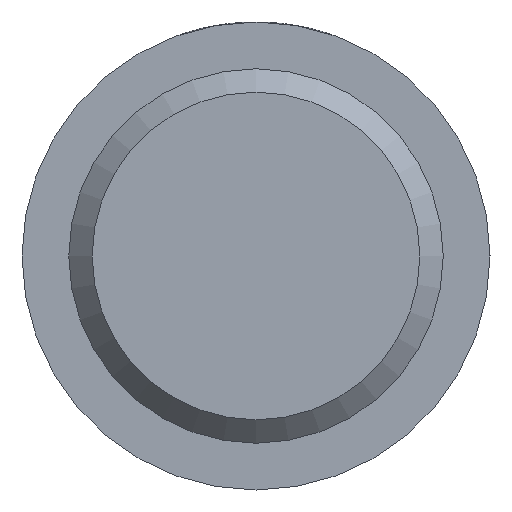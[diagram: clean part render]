
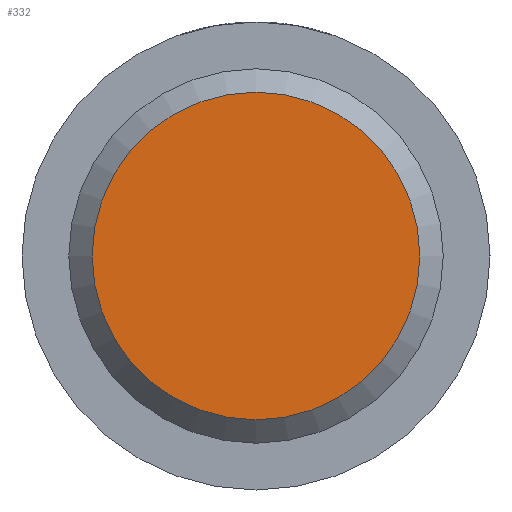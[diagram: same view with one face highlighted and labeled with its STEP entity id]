
A CAD part, left-side view. The second image highlights one B-rep face of the part: STEP entity #332.
In plain terms, the highlighted planar face has unit normal (-1, 0, 0).
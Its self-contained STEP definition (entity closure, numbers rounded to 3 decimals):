
#48=CIRCLE($,#367,7.);
#74=FACE_OUTER_BOUND($,#102,.T.);
#102=EDGE_LOOP($,(#271));
#170=VERTEX_POINT($,#556);
#207=EDGE_CURVE($,#170,#170,#48,.T.);
#271=ORIENTED_EDGE($,*,*,#207,.F.);
#313=PLANE($,#369);
#332=ADVANCED_FACE($,(#74),#313,.T.);
#367=AXIS2_PLACEMENT_3D($,#557,#439,#440);
#369=AXIS2_PLACEMENT_3D($,#560,#443,#444);
#439=DIRECTION('center_axis',(1.,0.,0.));
#440=DIRECTION('ref_axis',(0.,-1.,0.));
#443=DIRECTION('center_axis',(-1.,0.,0.));
#444=DIRECTION('ref_axis',(0.,0.,1.));
#556=CARTESIAN_POINT('',(0.,7.,0.));
#557=CARTESIAN_POINT('Origin',(0.,0.,0.));
#560=CARTESIAN_POINT('Origin',(0.,8.,0.));
